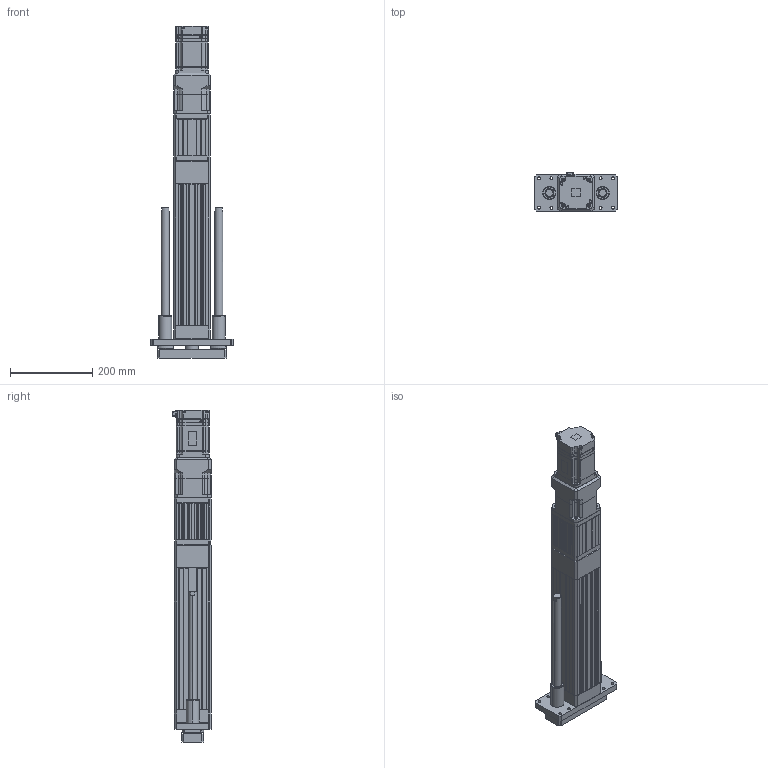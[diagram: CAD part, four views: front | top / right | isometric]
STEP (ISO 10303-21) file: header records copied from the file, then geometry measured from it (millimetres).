
FILE_DESCRIPTION (( 'STEP AP203' ), '1' );
FILE_NAME ('ANS090H-GS200-05(10)(25)-W75G05.STEP', '2019-03-18T01:54:02', ( 'user' ), ( '' ), 'SwSTEP 2.0', 'SolidWorks 2013', '' );
FILE_SCHEMA (( 'CONFIG_CONTROL_DESIGN' ));
Length unit declared in the file: millimetre
Products named in the file (5): ANS090H-GS200-05(10)(25)-W75G05; ANS090H GS200 VER2; ANS090 ROD ST200-G; SGMJV_08A_A21; AB090-005-S1-P2[YASKAWA SGMJV08A]
Assembly tree (4 placements, depth 2):
  ANS090H-GS200-05(10)(25)-W75G05
    ANS090H GS200 VER2
    ANS090 ROD ST200-G
    SGMJV_08A_A21
    AB090-005-S1-P2[YASKAWA SGMJV08A]
Bounding box: 200 x 93.8 x 808.1 mm (x, y, z)
Volume: 3772371.9 mm3; surface area: 701950.6 mm2
Topology: 3 solids, 14 shells, 1903 faces, 5056 edges, 3262 vertices
Faces by surface type: plane 1124, cylinder 581, cone 182, bspline 12, torus 4
Entity records: 59660 total; most frequent: CARTESIAN_POINT 11290, ORIENTED_EDGE 9984, DIRECTION 9947, EDGE_CURVE 5036, VECTOR 3517, LINE 3517, VERTEX_POINT 3262, AXIS2_PLACEMENT_3D 3215
